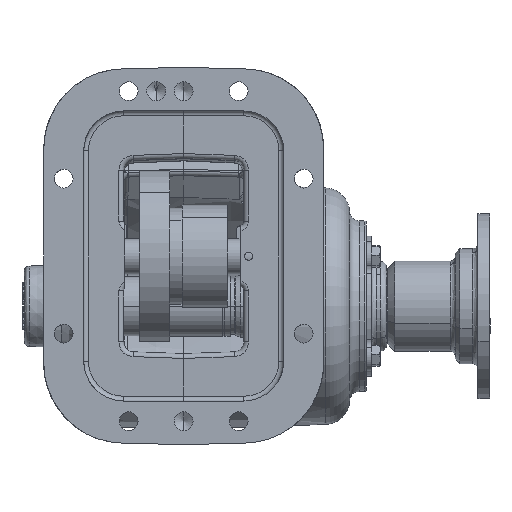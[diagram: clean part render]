
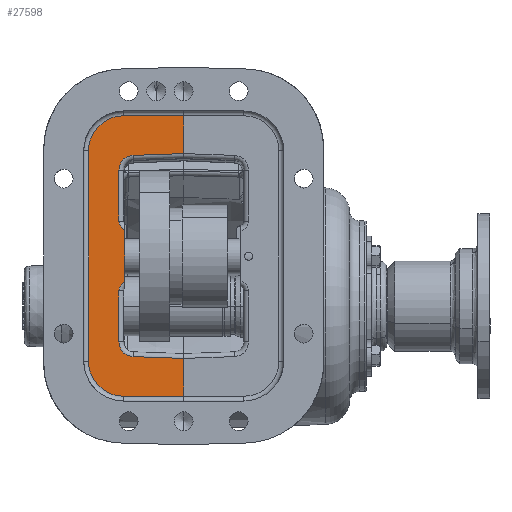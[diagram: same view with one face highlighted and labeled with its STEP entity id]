
A CAD part, front view. The second image highlights one B-rep face of the part: STEP entity #27598.
In plain terms, the highlighted planar face has unit normal (0, -1, 0).
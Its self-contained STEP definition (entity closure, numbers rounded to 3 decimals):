
#946 = AXIS2_PLACEMENT_3D ( 'NONE', #6943, #6955, #6957 ) ;
#3203 = AXIS2_PLACEMENT_3D ( 'NONE', #77121, #77122, #77123 ) ;
#3215 = AXIS2_PLACEMENT_3D ( 'NONE', #77174, #77175, #77176 ) ;
#3238 = AXIS2_PLACEMENT_3D ( 'NONE', #77611, #77612, #77613 ) ;
#3245 = AXIS2_PLACEMENT_3D ( 'NONE', #77644, #77645, #77646 ) ;
#3517 = AXIS2_PLACEMENT_3D ( 'NONE', #69476, #69478, #69480 ) ;
#3527 = AXIS2_PLACEMENT_3D ( 'NONE', #69640, #69642, #69644 ) ;
#5143 = VERTEX_POINT ( 'NONE', #116672 ) ;
#5172 = VERTEX_POINT ( 'NONE', #116711 ) ;
#5283 = VERTEX_POINT ( 'NONE', #116989 ) ;
#5288 = VERTEX_POINT ( 'NONE', #116981 ) ;
#5290 = VERTEX_POINT ( 'NONE', #117006 ) ;
#5300 = VERTEX_POINT ( 'NONE', #117025 ) ;
#5302 = VERTEX_POINT ( 'NONE', #117031 ) ;
#5319 = VERTEX_POINT ( 'NONE', #117062 ) ;
#5337 = VERTEX_POINT ( 'NONE', #117108 ) ;
#5345 = VERTEX_POINT ( 'NONE', #117132 ) ;
#5563 = EDGE_LOOP ( 'NONE', ( #103479, #103481, #103483, #103485, #103487, #103490, #103492, #103495, #103498, #103500, #103502, #103504, #103505, #103506, #103508, #103509 ) ) ;
#5580 = VERTEX_POINT ( 'NONE', #117436 ) ;
#5601 = VERTEX_POINT ( 'NONE', #117439 ) ;
#5626 = VERTEX_POINT ( 'NONE', #117455 ) ;
#5822 = VERTEX_POINT ( 'NONE', #117537 ) ;
#6943 = CARTESIAN_POINT ( 'NONE',  ( -99.29, -133.047, -95.578 ) ) ;
#6952 = PLANE ( 'NONE',  #946 ) ;
#6955 = DIRECTION ( 'NONE',  ( 0., 1., 0. ) ) ;
#6957 = DIRECTION ( 'NONE',  ( 0., 0., -1. ) ) ;
#17064 = EDGE_CURVE ( 'NONE', #5288, #5283, #77963, .T. ) ;
#17078 = EDGE_CURVE ( 'NONE', #5283, #5302, #77971, .T. ) ;
#17085 = EDGE_CURVE ( 'NONE', #5302, #5300, #77979, .T. ) ;
#17093 = EDGE_CURVE ( 'NONE', #5290, #5172, #77992, .T. ) ;
#17099 = EDGE_CURVE ( 'NONE', #5172, #5319, #77999, .T. ) ;
#17103 = EDGE_CURVE ( 'NONE', #5319, #5345, #78003, .T. ) ;
#17192 = EDGE_CURVE ( 'NONE', #5337, #5580, #78040, .T. ) ;
#17204 = EDGE_CURVE ( 'NONE', #5580, #5143, #78051, .T. ) ;
#17208 = EDGE_CURVE ( 'NONE', #5601, #5337, #78050, .T. ) ;
#17222 = EDGE_CURVE ( 'NONE', #5626, #5601, #78060, .T. ) ;
#17236 = EDGE_CURVE ( 'NONE', #5822, #5626, #78068, .T. ) ;
#18440 = FACE_OUTER_BOUND ( 'NONE', #5563, .T. ) ;
#22690 = EDGE_CURVE ( 'NONE', #5300, #58745, #78749, .T. ) ;
#22705 = EDGE_CURVE ( 'NONE', #56097, #5290, #78767, .T. ) ;
#22719 = EDGE_CURVE ( 'NONE', #58745, #56097, #78778, .T. ) ;
#22721 = EDGE_CURVE ( 'NONE', #5288, #5143, #78780, .T. ) ;
#22722 = EDGE_CURVE ( 'NONE', #5822, #5345, #78777, .T. ) ;
#27598 = ADVANCED_FACE ( 'NONE', ( #18440 ), #6952, .F. ) ;
#38183 = CARTESIAN_POINT ( 'NONE',  ( -47.728, -133.047, 5.386 ) ) ;
#56097 = VERTEX_POINT ( 'NONE', #38183 ) ;
#58745 = VERTEX_POINT ( 'NONE', #97649 ) ;
#69476 = CARTESIAN_POINT ( 'NONE',  ( -45.442, -133.047, 44.059 ) ) ;
#69478 = DIRECTION ( 'NONE',  ( 0., -1., 0. ) ) ;
#69480 = DIRECTION ( 'NONE',  ( 0., 0., -1. ) ) ;
#69640 = CARTESIAN_POINT ( 'NONE',  ( -45.442, -133.047, -0.265 ) ) ;
#69642 = DIRECTION ( 'NONE',  ( 0., -1., 0. ) ) ;
#69644 = DIRECTION ( 'NONE',  ( 0., 0., -1. ) ) ;
#69778 = CARTESIAN_POINT ( 'NONE',  ( -10.39, -133.047, -95.578 ) ) ;
#69791 = CARTESIAN_POINT ( 'NONE',  ( -47.728, -133.047, -95.578 ) ) ;
#69793 = DIRECTION ( 'NONE',  ( 0., 0., -1. ) ) ;
#69794 = CARTESIAN_POINT ( 'NONE',  ( -10.39, -133.047, -95.578 ) ) ;
#69798 = DIRECTION ( 'NONE',  ( 0., 0., 1. ) ) ;
#69800 = DIRECTION ( 'NONE',  ( 0., 0., 1. ) ) ;
#77102 = CARTESIAN_POINT ( 'NONE',  ( -42.468, -133.047, 85.803 ) ) ;
#77103 = DIRECTION ( 'NONE',  ( -0.999, 0., -0.035 ) ) ;
#77121 = CARTESIAN_POINT ( 'NONE',  ( -42.14, -133.047, 76.41 ) ) ;
#77122 = DIRECTION ( 'NONE',  ( 0., -1., 0. ) ) ;
#77123 = DIRECTION ( 'NONE',  ( 0., 0., -1. ) ) ;
#77135 = CARTESIAN_POINT ( 'NONE',  ( -51.538, -133.047, 44.059 ) ) ;
#77136 = DIRECTION ( 'NONE',  ( 0., 0., -1. ) ) ;
#77147 = DIRECTION ( 'NONE',  ( 0., 0., -1. ) ) ;
#77152 = CARTESIAN_POINT ( 'NONE',  ( -51.538, -133.047, -32.617 ) ) ;
#77174 = CARTESIAN_POINT ( 'NONE',  ( -42.14, -133.047, -32.617 ) ) ;
#77175 = DIRECTION ( 'NONE',  ( 0., -1., 0. ) ) ;
#77176 = DIRECTION ( 'NONE',  ( 0., 0., -1. ) ) ;
#77184 = CARTESIAN_POINT ( 'NONE',  ( -10.497, -133.047, -43.125 ) ) ;
#77185 = DIRECTION ( 'NONE',  ( 0.999, 0., -0.035 ) ) ;
#77611 = CARTESIAN_POINT ( 'NONE',  ( -48.49, -133.047, 88.572 ) ) ;
#77612 = DIRECTION ( 'NONE',  ( 0., 1., 0. ) ) ;
#77613 = DIRECTION ( 'NONE',  ( 0., 0., -1. ) ) ;
#77614 = DIRECTION ( 'NONE',  ( 0., 0., 1. ) ) ;
#77626 = CARTESIAN_POINT ( 'NONE',  ( -10.39, -133.047, 110.924 ) ) ;
#77627 = DIRECTION ( 'NONE',  ( 1., 0., 0. ) ) ;
#77629 = CARTESIAN_POINT ( 'NONE',  ( -70.842, -133.047, 88.572 ) ) ;
#77644 = CARTESIAN_POINT ( 'NONE',  ( -48.49, -133.047, -44.778 ) ) ;
#77645 = DIRECTION ( 'NONE',  ( 0., 1., 0. ) ) ;
#77646 = DIRECTION ( 'NONE',  ( 0., 0., -1. ) ) ;
#77658 = DIRECTION ( 'NONE',  ( -1., 0., 0. ) ) ;
#77662 = CARTESIAN_POINT ( 'NONE',  ( -48.49, -133.047, -67.13 ) ) ;
#77963 = LINE ( 'NONE', #77102, #77966 ) ;
#77966 = VECTOR ( 'NONE', #77103, 1000. ) ;
#77971 = CIRCLE ( 'NONE', #3203, 9.398 ) ;
#77979 = LINE ( 'NONE', #77135, #77982 ) ;
#77982 = VECTOR ( 'NONE', #77136, 1000. ) ;
#77992 = LINE ( 'NONE', #77152, #77994 ) ;
#77994 = VECTOR ( 'NONE', #77147, 1000. ) ;
#77999 = CIRCLE ( 'NONE', #3215, 9.398 ) ;
#78003 = LINE ( 'NONE', #77184, #78006 ) ;
#78006 = VECTOR ( 'NONE', #77185, 1000. ) ;
#78040 = CIRCLE ( 'NONE', #3238, 22.352 ) ;
#78050 = LINE ( 'NONE', #77629, #78057 ) ;
#78051 = LINE ( 'NONE', #77626, #78054 ) ;
#78054 = VECTOR ( 'NONE', #77627, 1000. ) ;
#78057 = VECTOR ( 'NONE', #77614, 1000. ) ;
#78060 = CIRCLE ( 'NONE', #3245, 22.352 ) ;
#78068 = LINE ( 'NONE', #77662, #78073 ) ;
#78073 = VECTOR ( 'NONE', #77658, 1000. ) ;
#78749 = CIRCLE ( 'NONE', #3517, 6.096 ) ;
#78767 = CIRCLE ( 'NONE', #3527, 6.096 ) ;
#78777 = LINE ( 'NONE', #69778, #78785 ) ;
#78778 = LINE ( 'NONE', #69791, #78781 ) ;
#78780 = LINE ( 'NONE', #69794, #78783 ) ;
#78781 = VECTOR ( 'NONE', #69793, 1000. ) ;
#78783 = VECTOR ( 'NONE', #69798, 1000. ) ;
#78785 = VECTOR ( 'NONE', #69800, 1000. ) ;
#97649 = CARTESIAN_POINT ( 'NONE',  ( -47.728, -133.047, 38.408 ) ) ;
#103479 = ORIENTED_EDGE ( 'NONE', *, *, #22719, .F. ) ;
#103481 = ORIENTED_EDGE ( 'NONE', *, *, #22690, .F. ) ;
#103483 = ORIENTED_EDGE ( 'NONE', *, *, #17085, .F. ) ;
#103485 = ORIENTED_EDGE ( 'NONE', *, *, #17078, .F. ) ;
#103487 = ORIENTED_EDGE ( 'NONE', *, *, #17064, .F. ) ;
#103490 = ORIENTED_EDGE ( 'NONE', *, *, #22721, .T. ) ;
#103492 = ORIENTED_EDGE ( 'NONE', *, *, #17204, .F. ) ;
#103495 = ORIENTED_EDGE ( 'NONE', *, *, #17192, .F. ) ;
#103498 = ORIENTED_EDGE ( 'NONE', *, *, #17208, .F. ) ;
#103500 = ORIENTED_EDGE ( 'NONE', *, *, #17222, .F. ) ;
#103502 = ORIENTED_EDGE ( 'NONE', *, *, #17236, .F. ) ;
#103504 = ORIENTED_EDGE ( 'NONE', *, *, #22722, .T. ) ;
#103505 = ORIENTED_EDGE ( 'NONE', *, *, #17103, .F. ) ;
#103506 = ORIENTED_EDGE ( 'NONE', *, *, #17099, .F. ) ;
#103508 = ORIENTED_EDGE ( 'NONE', *, *, #17093, .F. ) ;
#103509 = ORIENTED_EDGE ( 'NONE', *, *, #22705, .F. ) ;
#116672 = CARTESIAN_POINT ( 'NONE',  ( -10.39, -133.047, 110.924 ) ) ;
#116711 = CARTESIAN_POINT ( 'NONE',  ( -51.538, -133.047, -32.617 ) ) ;
#116981 = CARTESIAN_POINT ( 'NONE',  ( -10.39, -133.047, 86.923 ) ) ;
#116989 = CARTESIAN_POINT ( 'NONE',  ( -42.468, -133.047, 85.803 ) ) ;
#117006 = CARTESIAN_POINT ( 'NONE',  ( -51.538, -133.047, -0.265 ) ) ;
#117025 = CARTESIAN_POINT ( 'NONE',  ( -51.538, -133.047, 44.059 ) ) ;
#117031 = CARTESIAN_POINT ( 'NONE',  ( -51.538, -133.047, 76.41 ) ) ;
#117062 = CARTESIAN_POINT ( 'NONE',  ( -42.468, -133.047, -42.009 ) ) ;
#117108 = CARTESIAN_POINT ( 'NONE',  ( -70.842, -133.047, 88.572 ) ) ;
#117132 = CARTESIAN_POINT ( 'NONE',  ( -10.39, -133.047, -43.129 ) ) ;
#117436 = CARTESIAN_POINT ( 'NONE',  ( -48.49, -133.047, 110.924 ) ) ;
#117439 = CARTESIAN_POINT ( 'NONE',  ( -70.842, -133.047, -44.778 ) ) ;
#117455 = CARTESIAN_POINT ( 'NONE',  ( -48.49, -133.047, -67.13 ) ) ;
#117537 = CARTESIAN_POINT ( 'NONE',  ( -10.39, -133.047, -67.13 ) ) ;
